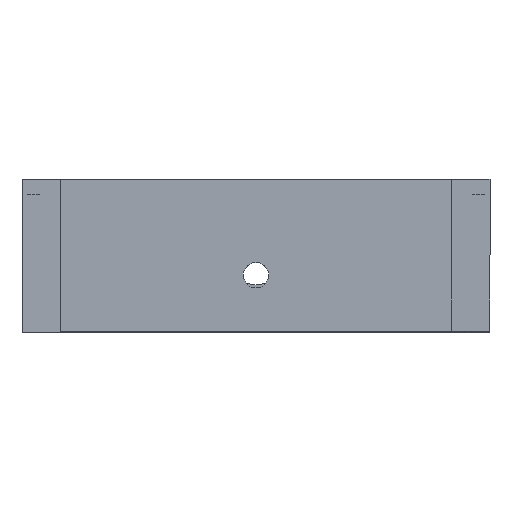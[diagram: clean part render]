
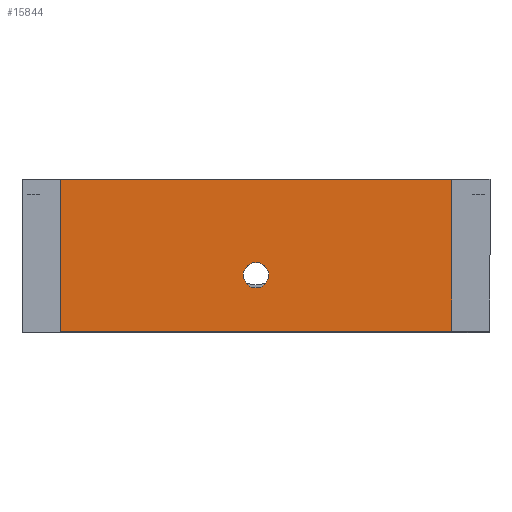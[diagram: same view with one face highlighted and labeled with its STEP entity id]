
A CAD part, front view. The second image highlights one B-rep face of the part: STEP entity #15844.
In plain terms, the highlighted planar face has unit normal (0, -1, 0).
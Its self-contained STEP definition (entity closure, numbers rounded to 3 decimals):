
#108 = EDGE_CURVE ( 'NONE', #18219, #6617, #7075, .T. ) ;
#2260 = VECTOR ( 'NONE', #25743, 1000. ) ;
#2503 = VECTOR ( 'NONE', #10845, 1000. ) ;
#2610 = VERTEX_POINT ( 'NONE', #14725 ) ;
#2635 = ORIENTED_EDGE ( 'NONE', *, *, #20893, .F. ) ;
#2713 = LINE ( 'NONE', #11756, #26700 ) ;
#3263 = AXIS2_PLACEMENT_3D ( 'NONE', #25753, #12251, #28022 ) ;
#3368 = CARTESIAN_POINT ( 'NONE',  ( -29.783, -92.296, 0.924 ) ) ;
#3767 = VERTEX_POINT ( 'NONE', #22975 ) ;
#4242 = EDGE_CURVE ( 'NONE', #8245, #3767, #8501, .T. ) ;
#4557 = VECTOR ( 'NONE', #10137, 1000. ) ;
#5801 = EDGE_CURVE ( 'NONE', #6617, #18219, #28854, .T. ) ;
#6270 = CARTESIAN_POINT ( 'NONE',  ( 21.217, -92.296, 0.924 ) ) ;
#6617 = VERTEX_POINT ( 'NONE', #18155 ) ;
#7075 = CIRCLE ( 'NONE', #16001, 1.65 ) ;
#8245 = VERTEX_POINT ( 'NONE', #21845 ) ;
#8389 = AXIS2_PLACEMENT_3D ( 'NONE', #6270, #22076, #8535 ) ;
#8501 = LINE ( 'NONE', #19860, #2503 ) ;
#8535 = DIRECTION ( 'NONE',  ( -1., 0., 0. ) ) ;
#10137 = DIRECTION ( 'NONE',  ( 0., 0., 1. ) ) ;
#10435 = CARTESIAN_POINT ( 'NONE',  ( 21.217, -92.296, 0.924 ) ) ;
#10845 = DIRECTION ( 'NONE',  ( 1., 0., 0. ) ) ;
#11412 = EDGE_CURVE ( 'NONE', #3767, #26752, #2713, .T. ) ;
#11756 = CARTESIAN_POINT ( 'NONE',  ( 21.217, -92.296, 0.924 ) ) ;
#12251 = DIRECTION ( 'NONE',  ( 0., -1., 0. ) ) ;
#13240 = DIRECTION ( 'NONE',  ( -1., 0., 0. ) ) ;
#13342 = FACE_OUTER_BOUND ( 'NONE', #16081, .T. ) ;
#14009 = DIRECTION ( 'NONE',  ( 0., 0., 1. ) ) ;
#14725 = CARTESIAN_POINT ( 'NONE',  ( -29.783, -92.296, 0.924 ) ) ;
#15844 = ADVANCED_FACE ( 'NONE', ( #23959, #13342 ), #26480, .T. ) ;
#15855 = LINE ( 'NONE', #3368, #4557 ) ;
#16001 = AXIS2_PLACEMENT_3D ( 'NONE', #17515, #17421, #13240 ) ;
#16081 = EDGE_LOOP ( 'NONE', ( #2635, #20369, #26468, #16732 ) ) ;
#16732 = ORIENTED_EDGE ( 'NONE', *, *, #29163, .T. ) ;
#17421 = DIRECTION ( 'NONE',  ( 0., -1., 0. ) ) ;
#17515 = CARTESIAN_POINT ( 'NONE',  ( -4.283, -92.296, -11.576 ) ) ;
#17970 = CARTESIAN_POINT ( 'NONE',  ( -5.933, -92.296, -11.576 ) ) ;
#18155 = CARTESIAN_POINT ( 'NONE',  ( -2.633, -92.296, -11.576 ) ) ;
#18219 = VERTEX_POINT ( 'NONE', #17970 ) ;
#18865 = ORIENTED_EDGE ( 'NONE', *, *, #5801, .F. ) ;
#19860 = CARTESIAN_POINT ( 'NONE',  ( 21.217, -92.296, -18.876 ) ) ;
#20369 = ORIENTED_EDGE ( 'NONE', *, *, #4242, .T. ) ;
#20893 = EDGE_CURVE ( 'NONE', #8245, #2610, #15855, .T. ) ;
#20990 = ORIENTED_EDGE ( 'NONE', *, *, #108, .F. ) ;
#21845 = CARTESIAN_POINT ( 'NONE',  ( -29.783, -92.296, -18.876 ) ) ;
#22076 = DIRECTION ( 'NONE',  ( 0., -1., 0. ) ) ;
#22975 = CARTESIAN_POINT ( 'NONE',  ( 21.217, -92.296, -18.876 ) ) ;
#23498 = CARTESIAN_POINT ( 'NONE',  ( 21.217, -92.296, 0.924 ) ) ;
#23959 = FACE_BOUND ( 'NONE', #26163, .T. ) ;
#25743 = DIRECTION ( 'NONE',  ( -1., 0., 0. ) ) ;
#25753 = CARTESIAN_POINT ( 'NONE',  ( -4.283, -92.296, -11.576 ) ) ;
#26163 = EDGE_LOOP ( 'NONE', ( #20990, #18865 ) ) ;
#26249 = LINE ( 'NONE', #23498, #2260 ) ;
#26468 = ORIENTED_EDGE ( 'NONE', *, *, #11412, .T. ) ;
#26480 = PLANE ( 'NONE',  #8389 ) ;
#26700 = VECTOR ( 'NONE', #14009, 1000. ) ;
#26752 = VERTEX_POINT ( 'NONE', #10435 ) ;
#28022 = DIRECTION ( 'NONE',  ( -1., 0., 0. ) ) ;
#28854 = CIRCLE ( 'NONE', #3263, 1.65 ) ;
#29163 = EDGE_CURVE ( 'NONE', #26752, #2610, #26249, .T. ) ;
